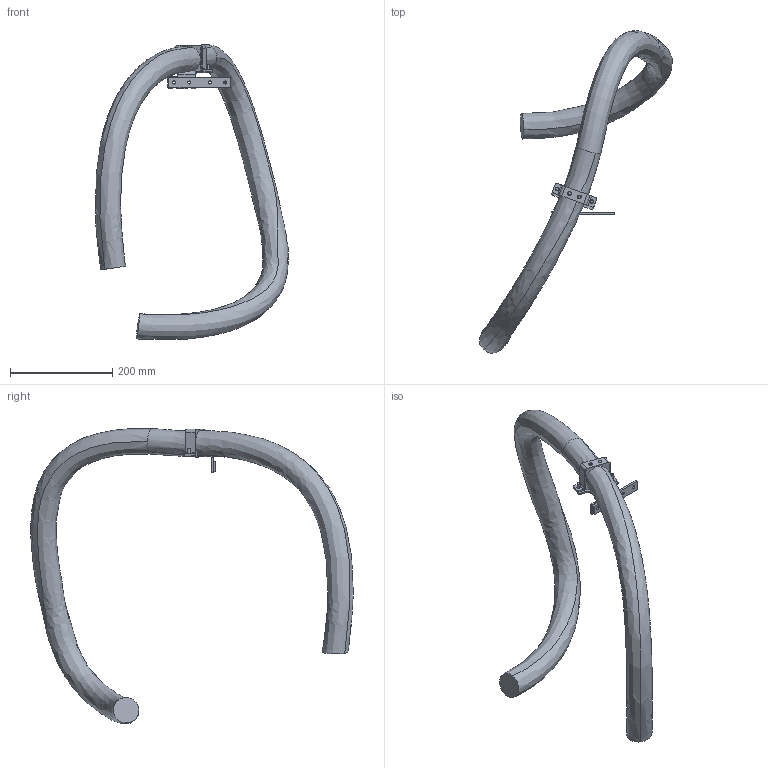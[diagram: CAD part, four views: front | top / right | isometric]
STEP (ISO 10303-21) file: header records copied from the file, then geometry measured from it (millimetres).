
FILE_DESCRIPTION (( 'STEP AP203' ), '1' );
FILE_NAME ('IRB6700_200_280_MH_CABLES_MH_link3a.STEP', '2013-10-23T12:31:04', ( 'ABB' ), ( 'ABB' ), 'SwSTEP 2.0', 'SolidWorks 2012', '' );
FILE_SCHEMA (( 'CONFIG_CONTROL_DESIGN' ));
Length unit declared in the file: millimetre
Products named in the file (1): IRB6700_200_280_MH_CABLES_MH_link3a
Bounding box: 376.57 x 629.21 x 575.75 mm (x, y, z)
Volume: 3247019 mm3; surface area: 279295.4 mm2
Topology: 1 solids, 1 shells, 147 faces, 376 edges, 238 vertices
Faces by surface type: plane 84, cylinder 52, cone 6, bspline 5
Entity records: 7035 total; most frequent: CARTESIAN_POINT 3353, DIRECTION 752, ORIENTED_EDGE 752, EDGE_CURVE 376, AXIS2_PLACEMENT_3D 270, VERTEX_POINT 238, LINE 212, VECTOR 212
